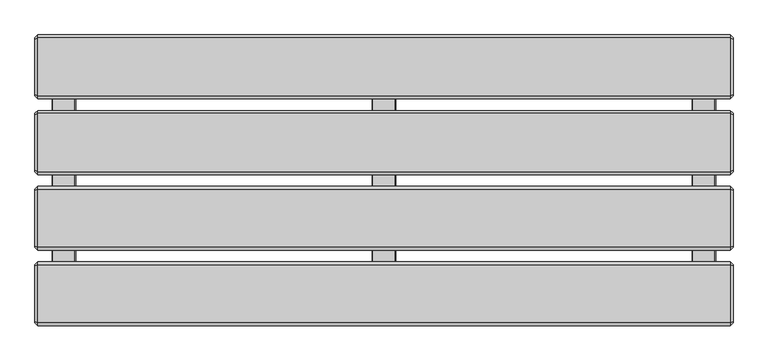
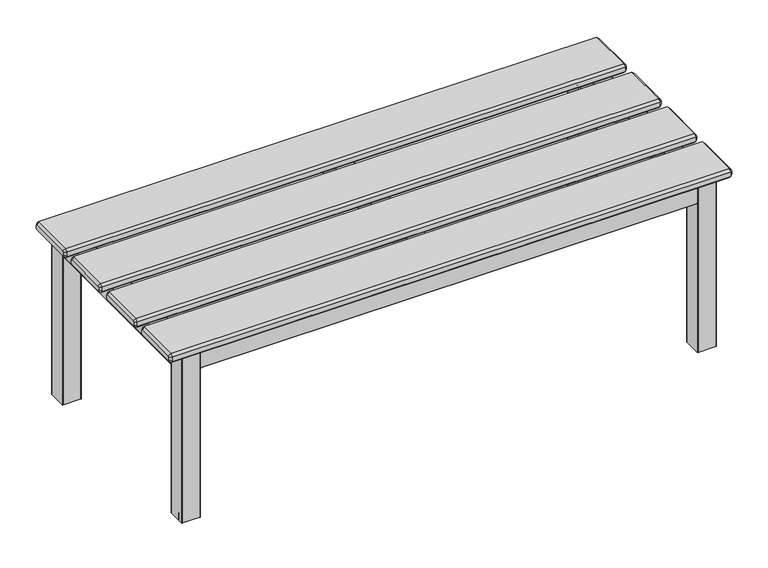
"""IFC4 building model written with IfcOpenShell, lengths in millimetres: furniture geometry, Senator_Lockers_SenseiQ_ChangingRoomBench : SIQ-CRBEN12."""

from ifc_helpers import new_model, si_unit, point, frame, frame_2d, origin, origin_with_axes, place, context, project, spatial, polyline, circle_curve, trimmed, segment, composite_curve, outline, extrude, faceted_brep, source, transform, mapped, element, save


def furniture_3131c408(model_context):
    return source(origin(), model_context, "Body", "SolidModel", [
        faceted_brep([(-200.0, 242.9289322, 395.0), (-200.0, 245.0, 392.9289322), (-200.0, 245.0, 387.0824356), (-200.0, 242.9289322, 385.0113678), (-200.0, 147.0824404, 385.0113678), (-200.0, 145.0113726, 387.0824356), (-200.0, 145.0113726, 392.9289322), (-200.0, 147.0824404, 395.0), (1000.0, 147.0824404, 395.0), (1000.0, 145.0113726, 392.9289322), (1000.0, 145.0113726, 387.0824356), (1000.0, 147.0824404, 385.0113678), (1000.0, 242.9289322, 385.0113678), (1000.0, 245.0, 387.0824356), (1000.0, 245.0, 392.9289322), (1000.0, 242.9289322, 395.0), (995.0, 145.0113726, 400.0), (995.0, 245.0, 400.0), (-195.0, 245.0, 400.0), (-195.0, 145.0113726, 400.0), (995.0, 250.0, 395.0), (-195.0, 250.0, 395.0), (995.0, 250.0, 385.0113678), (-195.0, 250.0, 385.0113678), (995.0, 245.0, 380.0113678), (-195.0, 245.0, 380.0113678), (995.0, 145.0113726, 380.0113678), (-195.0, 145.0113726, 380.0113678), (995.0, 140.0113726, 385.0113678), (-195.0, 140.0113726, 385.0113678), (995.0, 140.0113726, 395.0), (-195.0, 140.0113726, 395.0)], [[[0, 1, 2, 3, 4, 5, 6, 7]], [[8, 9, 10, 11, 12, 13, 14, 15]], [[16, 17, 18, 19]], [[17, 20, 21, 18]], [[20, 22, 23, 21]], [[22, 24, 25, 23]], [[24, 26, 27, 25]], [[26, 28, 29, 27]], [[28, 30, 31, 29]], [[30, 16, 19, 31]], [[30, 9, 8, 16]], [[9, 30, 28, 10]], [[10, 28, 26, 11]], [[11, 26, 24, 12]], [[12, 24, 22, 13]], [[13, 22, 20, 14]], [[14, 20, 17, 15]], [[16, 8, 15, 17]], [[21, 1, 0, 18]], [[1, 21, 23, 2]], [[2, 23, 25, 3]], [[3, 25, 27, 4]], [[4, 27, 29, 5]], [[5, 29, 31, 6]], [[6, 31, 19, 7]], [[18, 0, 7, 19]]]),
        faceted_brep([(-200.0, 112.9289322, 395.0), (-200.0, 115.0, 392.9289322), (-200.0, 115.0, 387.0824356), (-200.0, 112.9289322, 385.0113678), (-200.0, 17.0824404, 385.0113678), (-200.0, 15.0113726, 387.0824356), (-200.0, 15.0113726, 392.9289322), (-200.0, 17.0824404, 395.0), (1000.0, 17.0824404, 395.0), (1000.0, 15.0113726, 392.9289322), (1000.0, 15.0113726, 387.0824356), (1000.0, 17.0824404, 385.0113678), (1000.0, 112.9289322, 385.0113678), (1000.0, 115.0, 387.0824356), (1000.0, 115.0, 392.9289322), (1000.0, 112.9289322, 395.0), (995.0, 15.0113726, 400.0), (995.0, 115.0, 400.0), (-195.0, 115.0, 400.0), (-195.0, 15.0113726, 400.0), (995.0, 120.0, 395.0), (-195.0, 120.0, 395.0), (995.0, 120.0, 385.0113678), (-195.0, 120.0, 385.0113678), (995.0, 115.0, 380.0113678), (-195.0, 115.0, 380.0113678), (995.0, 15.0113726, 380.0113678), (-195.0, 15.0113726, 380.0113678), (995.0, 10.0113726, 385.0113678), (-195.0, 10.0113726, 385.0113678), (995.0, 10.0113726, 395.0), (-195.0, 10.0113726, 395.0)], [[[0, 1, 2, 3, 4, 5, 6, 7]], [[8, 9, 10, 11, 12, 13, 14, 15]], [[16, 17, 18, 19]], [[17, 20, 21, 18]], [[20, 22, 23, 21]], [[22, 24, 25, 23]], [[24, 26, 27, 25]], [[26, 28, 29, 27]], [[28, 30, 31, 29]], [[30, 16, 19, 31]], [[30, 9, 8, 16]], [[9, 30, 28, 10]], [[10, 28, 26, 11]], [[11, 26, 24, 12]], [[12, 24, 22, 13]], [[13, 22, 20, 14]], [[14, 20, 17, 15]], [[16, 8, 15, 17]], [[21, 1, 0, 18]], [[1, 21, 23, 2]], [[2, 23, 25, 3]], [[3, 25, 27, 4]], [[4, 27, 29, 5]], [[5, 29, 31, 6]], [[6, 31, 19, 7]], [[18, 0, 7, 19]]]),
        faceted_brep([(-200.0, -17.0824404, 395.0), (-200.0, -15.0113726, 392.9289322), (-200.0, -15.0113726, 387.0824356), (-200.0, -17.0824404, 385.0113678), (-200.0, -112.9289322, 385.0113678), (-200.0, -115.0, 387.0824356), (-200.0, -115.0, 392.9289322), (-200.0, -112.9289322, 395.0), (1000.0, -112.9289322, 395.0), (1000.0, -115.0, 392.9289322), (1000.0, -115.0, 387.0824356), (1000.0, -112.9289322, 385.0113678), (1000.0, -17.0824404, 385.0113678), (1000.0, -15.0113726, 387.0824356), (1000.0, -15.0113726, 392.9289322), (1000.0, -17.0824404, 395.0), (995.0, -15.0113726, 400.0), (995.0, -10.0113726, 395.0), (-195.0, -10.0113726, 395.0), (-195.0, -15.0113726, 400.0), (995.0, -10.0113726, 385.0113678), (-195.0, -10.0113726, 385.0113678), (995.0, -15.0113726, 380.0113678), (-195.0, -15.0113726, 380.0113678), (995.0, -115.0, 380.0113678), (-195.0, -115.0, 380.0113678), (995.0, -120.0, 385.0113678), (-195.0, -120.0, 385.0113678), (995.0, -120.0, 395.0), (-195.0, -120.0, 395.0), (995.0, -115.0, 400.0), (-195.0, -115.0, 400.0)], [[[0, 1, 2, 3, 4, 5, 6, 7]], [[8, 9, 10, 11, 12, 13, 14, 15]], [[16, 17, 18, 19]], [[17, 20, 21, 18]], [[20, 22, 23, 21]], [[22, 24, 25, 23]], [[24, 26, 27, 25]], [[26, 28, 29, 27]], [[28, 30, 31, 29]], [[30, 16, 19, 31]], [[28, 9, 8, 30]], [[9, 28, 26, 10]], [[10, 26, 24, 11]], [[11, 24, 22, 12]], [[12, 22, 20, 13]], [[13, 20, 17, 14]], [[14, 17, 16, 15]], [[30, 8, 15, 16]], [[18, 1, 0, 19]], [[1, 18, 21, 2]], [[2, 21, 23, 3]], [[3, 23, 25, 4]], [[4, 25, 27, 5]], [[5, 27, 29, 6]], [[6, 29, 31, 7]], [[19, 0, 7, 31]]]),
        faceted_brep([(-200.0, -147.0824404, 395.0), (-200.0, -145.0113726, 392.9289322), (-200.0, -145.0113726, 387.0824356), (-200.0, -147.0824404, 385.0113678), (-200.0, -242.9289322, 385.0113678), (-200.0, -245.0, 387.0824356), (-200.0, -245.0, 392.9289322), (-200.0, -242.9289322, 395.0), (1000.0, -242.9289322, 395.0), (1000.0, -245.0, 392.9289322), (1000.0, -245.0, 387.0824356), (1000.0, -242.9289322, 385.0113678), (1000.0, -147.0824404, 385.0113678), (1000.0, -145.0113726, 387.0824356), (1000.0, -145.0113726, 392.9289322), (1000.0, -147.0824404, 395.0), (995.0, -145.0113726, 400.0), (995.0, -140.0113726, 395.0), (-195.0, -140.0113726, 395.0), (-195.0, -145.0113726, 400.0), (995.0, -140.0113726, 385.0113678), (-195.0, -140.0113726, 385.0113678), (995.0, -145.0113726, 380.0113678), (-195.0, -145.0113726, 380.0113678), (995.0, -245.0, 380.0113678), (-195.0, -245.0, 380.0113678), (995.0, -250.0, 385.0113678), (-195.0, -250.0, 385.0113678), (995.0, -250.0, 395.0), (-195.0, -250.0, 395.0), (995.0, -245.0, 400.0), (-195.0, -245.0, 400.0)], [[[0, 1, 2, 3, 4, 5, 6, 7]], [[8, 9, 10, 11, 12, 13, 14, 15]], [[16, 17, 18, 19]], [[17, 20, 21, 18]], [[20, 22, 23, 21]], [[22, 24, 25, 23]], [[24, 26, 27, 25]], [[26, 28, 29, 27]], [[28, 30, 31, 29]], [[30, 16, 19, 31]], [[28, 9, 8, 30]], [[9, 28, 26, 10]], [[10, 26, 24, 11]], [[11, 24, 22, 12]], [[12, 22, 20, 13]], [[13, 20, 17, 14]], [[14, 17, 16, 15]], [[30, 8, 15, 16]], [[18, 1, 0, 19]], [[1, 18, 21, 2]], [[2, 21, 23, 3]], [[3, 23, 25, 4]], [[4, 25, 27, 5]], [[5, 27, 29, 6]], [[6, 29, 31, 7]], [[19, 0, 7, 31]]]),
        extrude(outline(composite_curve([segment(trimmed(circle_curve(frame_2d((956.9282079, 232.0000877)), 1.0), [point((956.9282079, 233.0000877))], [point((957.7942342, 232.5000863))], False, "CARTESIAN"), True, "CONTINUOUS"), segment(polyline([(957.7942342, 232.5000863), (964.7204614, 220.4999608)]), True, "CONTINUOUS"), segment(trimmed(circle_curve(frame_2d((963.8544351, 219.9999622)), 1.0), [point((964.7204614, 220.4999608))], [point((964.720461, 219.4999631))], False, "CARTESIAN"), True, "CONTINUOUS"), segment(polyline([(964.720461, 219.4999631), (957.7922784, 207.4999704)]), True, "CONTINUOUS"), segment(trimmed(circle_curve(frame_2d((956.9262525, 207.9999695)), 1.0), [point((957.7922784, 207.4999704))], [point((956.9262525, 206.9999695))], False, "CARTESIAN"), True, "CONTINUOUS"), segment(polyline([(956.9262525, 206.9999695), (943.0717713, 206.9999695)]), True, "CONTINUOUS"), segment(trimmed(circle_curve(frame_2d((943.0717713, 207.9999695)), 1.0), [point((943.0717713, 206.9999695))], [point((942.2057454, 207.4999704))], False, "CARTESIAN"), True, "CONTINUOUS"), segment(polyline([(942.2057454, 207.4999704), (935.2775628, 219.4999631)]), True, "CONTINUOUS"), segment(trimmed(circle_curve(frame_2d((936.1435887, 219.9999622)), 1.0), [point((935.2775628, 219.4999631))], [point((935.2775625, 220.4999608))], False, "CARTESIAN"), True, "CONTINUOUS"), segment(polyline([(935.2775625, 220.4999608), (942.2057455, 232.4999719)]), True, "CONTINUOUS"), segment(trimmed(circle_curve(frame_2d((943.0717718, 232.0002021)), 0.9998856), [point((942.2057455, 232.4999719))], [point((943.0717718, 233.0000877))], False, "CARTESIAN"), True, "CONTINUOUS"), segment(polyline([(943.0717718, 233.0000877), (956.9282079, 233.0000877)]), True, "CONTINUOUS")], self_intersect=False)), origin_with_axes(), (0.0, 0.0, 1.0), 4.999944),
        extrude(outline(composite_curve([segment(polyline([(956.9282181, -232.9999733), (943.0717819, -232.9999733)]), True, "CONTINUOUS"), segment(trimmed(circle_curve(frame_2d((943.0717819, -231.9999733)), 1.0), [point((943.0717819, -232.9999733))], [point((942.2057557, -232.4999719))], False, "CARTESIAN"), True, "CONTINUOUS"), segment(polyline([(942.2057557, -232.4999719), (935.2775726, -220.4999608)]), True, "CONTINUOUS"), segment(trimmed(circle_curve(frame_2d((936.1435989, -219.9999622)), 1.0), [point((935.2775726, -220.4999608))], [point((935.277573, -219.4999631))], False, "CARTESIAN"), True, "CONTINUOUS"), segment(polyline([(935.277573, -219.4999631), (942.2057556, -207.5000848)]), True, "CONTINUOUS"), segment(trimmed(circle_curve(frame_2d((943.0717815, -208.0000839)), 1.0), [point((942.2057556, -207.5000848))], [point((943.0717815, -207.0000839))], False, "CARTESIAN"), True, "CONTINUOUS"), segment(polyline([(943.0717815, -207.0000839), (956.9262424, -207.0000839)]), True, "CONTINUOUS"), segment(trimmed(circle_curve(frame_2d((956.9262424, -208.0001984)), 1.0001145), [point((956.9262424, -207.0000839))], [point((957.7922683, -207.4999704))], False, "CARTESIAN"), True, "CONTINUOUS"), segment(polyline([(957.7922683, -207.4999704), (964.7204509, -219.4999631)]), True, "CONTINUOUS"), segment(trimmed(circle_curve(frame_2d((963.854425, -219.9999622)), 1.0), [point((964.7204509, -219.4999631))], [point((964.7204512, -220.4999608))], False, "CARTESIAN"), True, "CONTINUOUS"), segment(polyline([(964.7204512, -220.4999608), (957.7942443, -232.4999719)]), True, "CONTINUOUS"), segment(trimmed(circle_curve(frame_2d((956.9282181, -231.9999733)), 1.0), [point((957.7942443, -232.4999719))], [point((956.9282181, -232.9999733))], False, "CARTESIAN"), True, "CONTINUOUS")], self_intersect=False)), origin_with_axes(), (0.0, 0.0, 1.0), 4.999944),
        extrude(outline(composite_curve([segment(trimmed(circle_curve(frame_2d((-156.9282181, -231.9999733)), 1.0), [point((-156.9282181, -232.9999733))], [point((-157.7943061, -232.4998649))], False, "CARTESIAN"), True, "CONTINUOUS"), segment(polyline([(-157.7943061, -232.4998649), (-164.67642, -220.4998616)]), True, "CONTINUOUS"), segment(trimmed(circle_curve(frame_2d((-163.8103455, -219.9999622)), 0.9999922), [point((-164.67642, -220.4998616))], [point((-164.6763624, -219.4999631))], False, "CARTESIAN"), True, "CONTINUOUS"), segment(polyline([(-164.6763624, -219.4999631), (-157.7923674, -207.5001421)]), True, "CONTINUOUS"), segment(trimmed(circle_curve(frame_2d((-156.9262424, -208.0001984)), 1.0001145), [point((-157.7923674, -207.5001421))], [point((-156.9262424, -207.0000839))], False, "CARTESIAN"), True, "CONTINUOUS"), segment(polyline([(-156.9262424, -207.0000839), (-143.0717815, -207.0000839)]), True, "CONTINUOUS"), segment(trimmed(circle_curve(frame_2d((-143.0717815, -208.0000839)), 1.0), [point((-143.0717815, -207.0000839))], [point((-142.2057576, -207.5000812))], False, "CARTESIAN"), True, "CONTINUOUS"), segment(polyline([(-142.2057576, -207.5000812), (-135.2335331, -219.4999595)]), True, "CONTINUOUS"), segment(trimmed(circle_curve(frame_2d((-136.0995502, -219.999953)), 0.9999895), [point((-135.2335331, -219.4999595))], [point((-135.2335414, -220.4999608))], False, "CARTESIAN"), True, "CONTINUOUS"), segment(polyline([(-135.2335414, -220.4999608), (-142.2057557, -232.4999719)]), True, "CONTINUOUS"), segment(trimmed(circle_curve(frame_2d((-143.0717819, -231.9999733)), 1.0), [point((-142.2057557, -232.4999719))], [point((-143.0717819, -232.9999733))], False, "CARTESIAN"), True, "CONTINUOUS"), segment(polyline([(-143.0717819, -232.9999733), (-156.9282181, -232.9999733)]), True, "CONTINUOUS")], self_intersect=False)), origin_with_axes(), (0.0, 0.0, 1.0), 4.999944),
        extrude(outline(composite_curve([segment(polyline([(-156.9282079, 233.0000877), (-143.0717718, 233.0000877)]), True, "CONTINUOUS"), segment(trimmed(circle_curve(frame_2d((-143.0717718, 232.0002021)), 0.9998856), [point((-143.0717718, 233.0000877))], [point((-142.2058446, 232.5001435))], False, "CARTESIAN"), True, "CONTINUOUS"), segment(polyline([(-142.2058446, 232.5001435), (-135.2335313, 220.4999626)]), True, "CONTINUOUS"), segment(trimmed(circle_curve(frame_2d((-136.0995401, 219.9999558)), 0.9999891), [point((-135.2335313, 220.4999626))], [point((-135.2335205, 219.4999677))], False, "CARTESIAN"), True, "CONTINUOUS"), segment(polyline([(-135.2335205, 219.4999677), (-142.2057454, 207.4999704)]), True, "CONTINUOUS"), segment(trimmed(circle_curve(frame_2d((-143.0717713, 207.9999695)), 1.0), [point((-142.2057454, 207.4999704))], [point((-143.0717713, 206.9999695))], False, "CARTESIAN"), True, "CONTINUOUS"), segment(polyline([(-143.0717713, 206.9999695), (-156.9262525, 206.9999695)]), True, "CONTINUOUS"), segment(trimmed(circle_curve(frame_2d((-156.9262525, 207.9999695)), 1.0), [point((-156.9262525, 206.9999695))], [point((-157.7922784, 207.4999704))], False, "CARTESIAN"), True, "CONTINUOUS"), segment(polyline([(-157.7922784, 207.4999704), (-164.6763777, 219.4999677)]), True, "CONTINUOUS"), segment(trimmed(circle_curve(frame_2d((-163.8103581, 219.9999558)), 0.9999891), [point((-164.6763777, 219.4999677))], [point((-164.6764301, 220.4998532))], False, "CARTESIAN"), True, "CONTINUOUS"), segment(polyline([(-164.6764301, 220.4998532), (-157.7942973, 232.4999768)]), True, "CONTINUOUS"), segment(trimmed(circle_curve(frame_2d((-156.9282079, 232.0000877)), 1.0), [point((-157.7942973, 232.4999768))], [point((-156.9282079, 233.0000877))], False, "CARTESIAN"), True, "CONTINUOUS")], self_intersect=False)), origin_with_axes(), (0.0, 0.0, 1.0), 4.999944),
        extrude(outline(composite_curve([segment(polyline([(-239.1840744, 341.0395211), (-239.1840744, 378.9999905)]), True, "CONTINUOUS"), segment(trimmed(circle_curve(frame_2d((-238.1840744, 378.9999905)), 1.0), [point((-239.1840744, 378.9999905))], [point((-238.1840744, 379.9999905))], False, "CARTESIAN"), True, "CONTINUOUS"), segment(polyline([(-238.1840744, 379.9999905), (-201.8159733, 379.9999905)]), True, "CONTINUOUS"), segment(trimmed(circle_curve(frame_2d((-201.8159733, 379.0)), 0.9999905), [point((-201.8159733, 379.9999905))], [point((-200.8159828, 379.0))], False, "CARTESIAN"), True, "CONTINUOUS"), segment(polyline([(-200.8159828, 379.0), (-200.8159828, 341.0395211)]), True, "CONTINUOUS"), segment(trimmed(circle_curve(frame_2d((-201.8159828, 341.0395211)), 1.0), [point((-200.8159828, 341.0395211))], [point((-201.8159828, 340.0395211))], False, "CARTESIAN"), True, "CONTINUOUS"), segment(polyline([(-201.8159828, 340.0395211), (-238.1840744, 340.0395211)]), True, "CONTINUOUS"), segment(trimmed(circle_curve(frame_2d((-238.1840744, 341.0395211)), 1.0), [point((-238.1840744, 340.0395211))], [point((-239.1840744, 341.0395211))], False, "CARTESIAN"), True, "CONTINUOUS")], self_intersect=False)), frame((-129.9648105, 0.0, 0.0), z_axis=(1.0, 0.0, 0.0), x_axis=(0.0, 1.0, 0.0)), (0.0, 0.0, 1.0), 1059.929621),
        extrude(outline(composite_curve([segment(trimmed(circle_curve(frame_2d((238.1840744, 341.0395211)), 1.0), [point((239.1840744, 341.0395211))], [point((238.1840744, 340.0395211))], False, "CARTESIAN"), True, "CONTINUOUS"), segment(polyline([(238.1840744, 340.0395211), (201.8159828, 340.0395211)]), True, "CONTINUOUS"), segment(trimmed(circle_curve(frame_2d((201.8159828, 341.0395211)), 1.0), [point((201.8159828, 340.0395211))], [point((200.8159828, 341.0395211))], False, "CARTESIAN"), True, "CONTINUOUS"), segment(polyline([(200.8159828, 341.0395211), (200.8159828, 378.9999905)]), True, "CONTINUOUS"), segment(trimmed(circle_curve(frame_2d((201.8159828, 378.9999905)), 1.0), [point((200.8159828, 378.9999905))], [point((201.8159828, 379.9999905))], False, "CARTESIAN"), True, "CONTINUOUS"), segment(polyline([(201.8159828, 379.9999905), (238.1840839, 379.9999905)]), True, "CONTINUOUS"), segment(trimmed(circle_curve(frame_2d((238.1840839, 379.0)), 0.9999905), [point((238.1840839, 379.9999905))], [point((239.1840744, 379.0))], False, "CARTESIAN"), True, "CONTINUOUS"), segment(polyline([(239.1840744, 379.0), (239.1840744, 341.0395211)]), True, "CONTINUOUS")], self_intersect=False)), frame((-129.9648105, 0.0, 0.0), z_axis=(1.0, 0.0, 0.0), x_axis=(0.0, 1.0, 0.0)), (0.0, 0.0, 1.0), 1059.929621),
        extrude(outline(composite_curve([segment(polyline([(378.9664172, 380.0351059), (341.0350952, 380.0351059)]), True, "CONTINUOUS"), segment(trimmed(circle_curve(frame_2d((341.0350952, 381.0351059)), 1.0), [point((341.0350952, 380.0351059))], [point((340.0350952, 381.0351059))], False, "CARTESIAN"), True, "CONTINUOUS"), segment(polyline([(340.0350952, 381.0351059), (340.0350952, 418.9648941)]), True, "CONTINUOUS"), segment(trimmed(circle_curve(frame_2d((341.0350952, 418.9648941)), 1.0), [point((340.0350952, 418.9648941))], [point((341.0350952, 419.9648941))], False, "CARTESIAN"), True, "CONTINUOUS"), segment(polyline([(341.0350952, 419.9648941), (378.9664172, 419.9648941)]), True, "CONTINUOUS"), segment(trimmed(circle_curve(frame_2d((378.9664172, 418.9648941)), 1.0), [point((378.9664172, 419.9648941))], [point((379.9664172, 418.9648941))], False, "CARTESIAN"), True, "CONTINUOUS"), segment(polyline([(379.9664172, 418.9648941), (379.9664172, 381.0351059)]), True, "CONTINUOUS"), segment(trimmed(circle_curve(frame_2d((378.9664172, 381.0351059)), 1.0), [point((379.9664172, 381.0351059))], [point((378.9664172, 380.0351059))], False, "CARTESIAN"), True, "CONTINUOUS")], self_intersect=False)), frame((0.0, -200.0000286, 0.0), z_axis=(0.0, 1.0, 0.0), x_axis=(0.0, 0.0, 1.0)), (0.0, 0.0, 1.0), 400.0000572),
        extrude(outline(composite_curve([segment(polyline([(378.9664172, -169.9549807), (341.1231577, -169.9549807)]), True, "CONTINUOUS"), segment(trimmed(circle_curve(frame_2d((341.1231577, -168.9549807)), 1.0), [point((341.1231577, -169.9549807))], [point((340.1231577, -168.9549807))], False, "CARTESIAN"), True, "CONTINUOUS"), segment(polyline([(340.1231577, -168.9549807), (340.1231577, -131.2110731)]), True, "CONTINUOUS"), segment(trimmed(circle_curve(frame_2d((341.3792501, -131.2110731)), 1.2560924), [point((340.1231577, -131.2110731))], [point((341.3792501, -129.9549807))], False, "CARTESIAN"), True, "CONTINUOUS"), segment(polyline([(341.3792501, -129.9549807), (378.6222623, -129.9549807)]), True, "CONTINUOUS"), segment(trimmed(circle_curve(frame_2d((378.6222623, -131.2991356)), 1.3441549), [point((378.6222623, -129.9549807))], [point((379.9664172, -131.2991356))], False, "CARTESIAN"), True, "CONTINUOUS"), segment(polyline([(379.9664172, -131.2991356), (379.9664172, -168.9549807)]), True, "CONTINUOUS"), segment(trimmed(circle_curve(frame_2d((378.9664172, -168.9549807)), 1.0), [point((379.9664172, -168.9549807))], [point((378.9664172, -169.9549807))], False, "CARTESIAN"), True, "CONTINUOUS")], self_intersect=False)), frame((0.0, -200.0000286, 0.0), z_axis=(0.0, 1.0, 0.0), x_axis=(0.0, 0.0, 1.0)), (0.0, 0.0, 1.0), 400.0000572),
        extrude(outline(composite_curve([segment(trimmed(circle_curve(frame_2d((378.6382939, 968.6699006)), 1.3281233), [point((378.6382939, 969.9980239))], [point((379.9664172, 968.6699006))], False, "CARTESIAN"), True, "CONTINUOUS"), segment(polyline([(379.9664172, 968.6699006), (379.9664172, 931.0)]), True, "CONTINUOUS"), segment(trimmed(circle_curve(frame_2d((378.9664172, 931.0)), 1.0), [point((379.9664172, 931.0))], [point((378.9664172, 930.0))], False, "CARTESIAN"), True, "CONTINUOUS"), segment(polyline([(378.9664172, 930.0), (341.0350952, 930.0)]), True, "CONTINUOUS"), segment(trimmed(circle_curve(frame_2d((341.0350952, 931.0)), 1.0), [point((341.0350952, 930.0))], [point((340.0350952, 931.0))], False, "CARTESIAN"), True, "CONTINUOUS"), segment(polyline([(340.0350952, 931.0), (340.0350952, 968.6718767)]), True, "CONTINUOUS"), segment(trimmed(circle_curve(frame_2d((341.3612424, 968.6718767)), 1.3261471), [point((340.0350952, 968.6718767))], [point((341.3612424, 969.9980239))], False, "CARTESIAN"), True, "CONTINUOUS"), segment(polyline([(341.3612424, 969.9980239), (378.6382939, 969.9980239)]), True, "CONTINUOUS")], self_intersect=False)), frame((0.0, -200.0000286, 0.0), z_axis=(0.0, 1.0, 0.0), x_axis=(0.0, 0.0, 1.0)), (0.0, 0.0, 1.0), 400.0000572),
        extrude(outline(composite_curve([segment(trimmed(circle_curve(frame_2d((-131.3945577, -201.4297759)), 1.4297473), [point((-131.3945577, -200.0000286))], [point((-129.9648105, -201.4297759))], False, "CARTESIAN"), True, "CONTINUOUS"), segment(polyline([(-129.9648105, -201.4297759), (-129.9648105, -238.9926958)]), True, "CONTINUOUS"), segment(trimmed(circle_curve(frame_2d((-130.9721433, -238.9926958)), 1.0073328), [point((-129.9648105, -238.9926958))], [point((-130.9721433, -240.0000286))], False, "CARTESIAN"), True, "CONTINUOUS"), segment(polyline([(-130.9721433, -240.0000286), (-168.9183694, -240.0000286)]), True, "CONTINUOUS"), segment(trimmed(circle_curve(frame_2d((-168.9183694, -238.9732471)), 1.0267815), [point((-168.9183694, -240.0000286))], [point((-169.9451509, -238.9732471))], False, "CARTESIAN"), True, "CONTINUOUS"), segment(polyline([(-169.9451509, -238.9732471), (-169.9451509, -201.4292618)]), True, "CONTINUOUS"), segment(trimmed(circle_curve(frame_2d((-168.5159178, -201.4292618)), 1.4292332), [point((-169.9451509, -201.4292618))], [point((-168.5159178, -200.0000286))], False, "CARTESIAN"), True, "CONTINUOUS"), segment(polyline([(-168.5159178, -200.0000286), (-131.3945577, -200.0000286)]), True, "CONTINUOUS")], self_intersect=False)), frame((0.0, 0.0, 4.999944), z_axis=(0.0, 0.0, 1.0), x_axis=(1.0, 0.0, 0.0)), (0.0, 0.0, 1.0), 375.000056),
        extrude(outline(composite_curve([segment(polyline([(-130.9961763, 200.0), (-168.9142992, 200.0)]), True, "CONTINUOUS"), segment(trimmed(circle_curve(frame_2d((-168.9142992, 201.0308517)), 1.0308517), [point((-168.9142992, 200.0))], [point((-169.9451509, 201.0308517))], False, "CARTESIAN"), True, "CONTINUOUS"), segment(polyline([(-169.9451509, 201.0308517), (-169.9451509, 238.9732566)]), True, "CONTINUOUS"), segment(trimmed(circle_curve(frame_2d((-168.9183694, 238.9732566)), 1.0267815), [point((-169.9451509, 238.9732566))], [point((-168.9183694, 240.0000381))], False, "CARTESIAN"), True, "CONTINUOUS"), segment(polyline([(-168.9183694, 240.0000381), (-130.9721433, 240.0000381)]), True, "CONTINUOUS"), segment(trimmed(circle_curve(frame_2d((-130.9721433, 238.9927053)), 1.0073328), [point((-130.9721433, 240.0000381))], [point((-129.9648105, 238.9927053))], False, "CARTESIAN"), True, "CONTINUOUS"), segment(polyline([(-129.9648105, 238.9927053), (-129.9648105, 201.0313658)]), True, "CONTINUOUS"), segment(trimmed(circle_curve(frame_2d((-130.9961763, 201.0313658)), 1.0313658), [point((-129.9648105, 201.0313658))], [point((-130.9961763, 200.0))], False, "CARTESIAN"), True, "CONTINUOUS")], self_intersect=False)), frame((0.0, 0.0, 4.999944), z_axis=(0.0, 0.0, 1.0), x_axis=(1.0, 0.0, 0.0)), (0.0, 0.0, 1.0), 375.000056),
        extrude(outline(composite_curve([segment(polyline([(930.9961763, -200.0000286), (969.0023617, -200.0000286)]), True, "CONTINUOUS"), segment(trimmed(circle_curve(frame_2d((969.0023617, -201.0308803)), 1.0308517), [point((969.0023617, -200.0000286))], [point((970.0332134, -201.0308803))], False, "CARTESIAN"), True, "CONTINUOUS"), segment(polyline([(970.0332134, -201.0308803), (970.0332134, -238.9732471)]), True, "CONTINUOUS"), segment(trimmed(circle_curve(frame_2d((969.0064319, -238.9732471)), 1.0267815), [point((970.0332134, -238.9732471))], [point((969.0064319, -240.0000286))], False, "CARTESIAN"), True, "CONTINUOUS"), segment(polyline([(969.0064319, -240.0000286), (930.9721433, -240.0000286)]), True, "CONTINUOUS"), segment(trimmed(circle_curve(frame_2d((930.9721433, -238.9926958)), 1.0073328), [point((930.9721433, -240.0000286))], [point((929.9648105, -238.9926958))], False, "CARTESIAN"), True, "CONTINUOUS"), segment(polyline([(929.9648105, -238.9926958), (929.9648105, -201.0313944)]), True, "CONTINUOUS"), segment(trimmed(circle_curve(frame_2d((930.9961763, -201.0313944)), 1.0313658), [point((929.9648105, -201.0313944))], [point((930.9961763, -200.0000286))], False, "CARTESIAN"), True, "CONTINUOUS")], self_intersect=False)), frame((0.0, 0.0, 4.999944), z_axis=(0.0, 0.0, 1.0), x_axis=(1.0, 0.0, 0.0)), (0.0, 0.0, 1.0), 375.000056),
        extrude(outline(composite_curve([segment(trimmed(circle_curve(frame_2d((930.9961763, 201.0313658)), 1.0313658), [point((930.9961763, 200.0))], [point((929.9648105, 201.0313658))], False, "CARTESIAN"), True, "CONTINUOUS"), segment(polyline([(929.9648105, 201.0313658), (929.9648105, 238.9927244)]), True, "CONTINUOUS"), segment(trimmed(circle_curve(frame_2d((930.9721433, 238.9927244)), 1.0073328), [point((929.9648105, 238.9927244))], [point((930.9721433, 240.0000572))], False, "CARTESIAN"), True, "CONTINUOUS"), segment(polyline([(930.9721433, 240.0000572), (969.0064319, 240.0000572)]), True, "CONTINUOUS"), segment(trimmed(circle_curve(frame_2d((969.0064319, 238.9732757)), 1.0267815), [point((969.0064319, 240.0000572))], [point((970.0332134, 238.9732757))], False, "CARTESIAN"), True, "CONTINUOUS"), segment(polyline([(970.0332134, 238.9732757), (970.0332134, 201.0994655)]), True, "CONTINUOUS"), segment(trimmed(circle_curve(frame_2d((968.9337479, 201.0994655)), 1.0994655), [point((970.0332134, 201.0994655))], [point((968.9337479, 200.0))], False, "CARTESIAN"), True, "CONTINUOUS"), segment(polyline([(968.9337479, 200.0), (930.9961763, 200.0)]), True, "CONTINUOUS")], self_intersect=False)), frame((0.0, 0.0, 4.999944), z_axis=(0.0, 0.0, 1.0), x_axis=(1.0, 0.0, 0.0)), (0.0, 0.0, 1.0), 375.000056),
    ])


if __name__ == "__main__":
    model = new_model("IFC4")
    model_context = context("Model", 3, world=origin())
    ifc_project = project(units=[si_unit("LENGTHUNIT", "METRE", prefix="MILLI")], contexts=[model_context])
    site = spatial("IfcSite", under=ifc_project)
    building = spatial("IfcBuilding", under=site)
    placement = place(None, origin())
    furniture_shape = furniture_3131c408(model_context)
    element("IfcFurniture", 1, ObjectType="Senator_Lockers_SenseiQ_ChangingRoomBench : SIQ-CRBEN12", at=placement, inside=building, context=model_context, shape_type="MappedRepresentation", body=[
        mapped(furniture_shape, transform((0.0, 0.0, 0.0), x_axis=(1.0, 0.0, 0.0), y_axis=(0.0, 1.0, 0.0), z_axis=(0.0, 0.0, 1.0))),
    ])
    save(model, "model.ifc")
